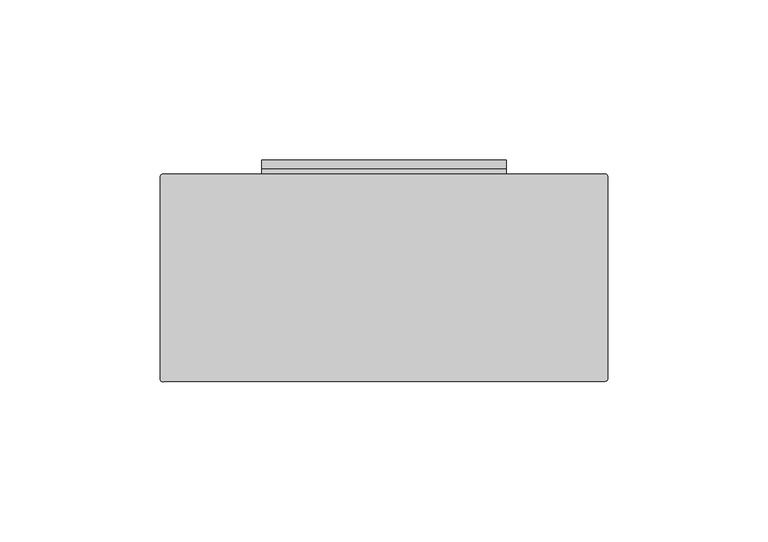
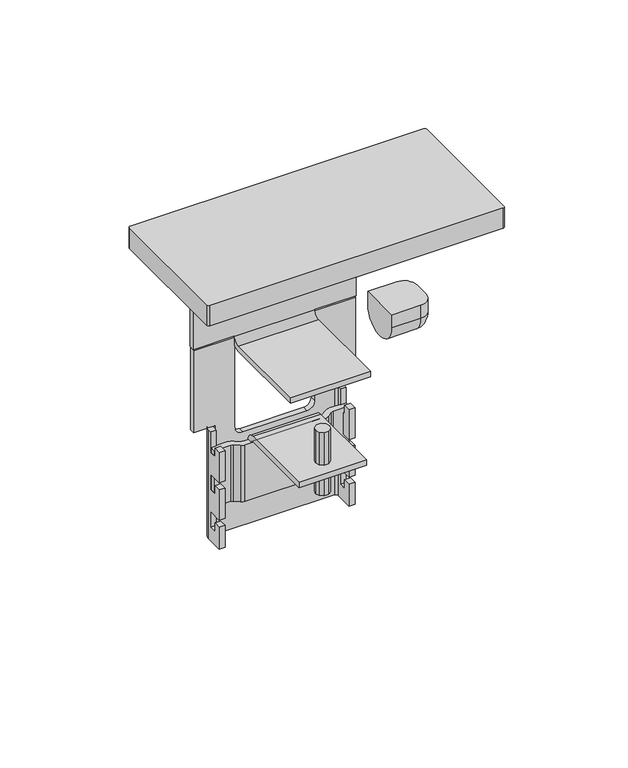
"""IFC4 building model written with IfcOpenShell, lengths in millimetres: furniture geometry, HON - Voi - Dean Power Module Clamp : Dean Power Module Clamp."""

from ifc_helpers import new_model, si_unit, point, frame, frame_2d, origin, place, context, project, spatial, polyline, circle_curve, ellipse_curve, trimmed, segment, composite_curve, outline, extrude, source, transform, mapped, element, save
from ifc_brep_helpers import plane_surface, cylinder_surface, revolved_surface, advanced_brep


def furniture_2e87ed6a(model_context):
    return source(origin(), model_context, "Body", "SolidModel", [
        advanced_brep(
        [(38.2728369, 5.3339995, 802.284387), (38.2728369, 2.6670006, 802.284387), (38.2728369, 2.6670006, 800.0745655), (38.2728369, 0.5643118, 801.9541746), (38.2728369, -0.9144004, 801.9541746), (38.2728369, -1.7017993, 802.7415735), (38.2728369, -1.7017993, 805.6625238), (38.2728369, -3.2003997, 805.6625238), (38.2728369, -3.2003997, 803.02144), (38.2728369, -0.6345339, 800.4555742), (38.2728369, 1.1684001, 800.4555742), (38.2728369, 1.1684001, 789.2870215), (38.2728369, -0.6345339, 789.2870215), (38.2728369, -3.2003997, 786.7211557), (38.2728369, -3.2003997, 784.0800719), (38.2728369, -1.7017993, 784.0800719), (38.2728369, -1.7017993, 787.0010222), (38.2728369, -0.9144004, 787.7884211), (38.2728369, 0.5643118, 787.7884211), (38.2728369, 2.6670006, 789.6680302), (38.2728369, 2.6670006, 755.2308638), (38.2728369, 5.3339995, 755.2308638), (-38.2728369, 2.6670006, 789.6680302), (-38.2728369, 0.5643118, 787.7884211), (-38.2728369, -0.9144004, 787.7884211), (-38.2728369, -1.7017993, 787.0010222), (-38.2728369, -1.7017993, 784.0800719), (-38.2728369, -3.2003997, 784.0800719), (-38.2728369, -3.2003997, 786.7211557), (-38.2728369, -0.6345339, 789.2870215), (-38.2728369, 1.1684001, 789.2870215), (-38.2728369, 1.1684001, 800.4555742), (-38.2728369, -0.6345339, 800.4555742), (-38.2728369, -3.2003997, 803.02144), (-38.2728369, -3.2003997, 805.6625238), (-38.2728369, -1.7017993, 805.6625238), (-38.2728369, -1.7017993, 802.7415735), (-38.2728369, -0.9144004, 801.9541746), (-38.2728369, 0.5643118, 801.9541746), (-38.2728369, 2.6670006, 800.0745655), (-38.2728369, 2.6670006, 802.284387), (-38.2728369, 5.3339995, 802.284387), (-38.2728369, 5.3339995, 755.2308638), (-38.2728369, 2.6670006, 755.2308638), (18.7960002, 5.3339995, 755.2308638), (18.7960002, 5.3339995, 754.750809), (-18.7960002, 5.3339995, 754.750809), (-18.7960002, 5.3339995, 755.2308638), (18.7960002, -0.3731531, 751.9669641), (-18.7960002, -0.3731531, 751.9669641), (-18.7960002, -42.6838454, 751.9669641), (18.7960002, -42.6838454, 751.9669641), (-18.7960002, -42.6838454, 749.2999758), (18.7960002, -42.6838454, 749.2999758), (-18.7960002, -0.1168337, 749.2999758), (18.7960002, -0.1168337, 749.2999758), (-18.7960002, 2.6670006, 755.2308638), (-18.7960002, 2.6670006, 755.0071178), (18.7960002, 2.6670006, 755.0071178), (18.7960002, 2.6670006, 755.2308638)],
        [
            (0, 1),
            (1, 2),
            (2, 3, circle_curve(frame((38.2728369, 0.7755579, 800.0745655), z_axis=(1.0, 0.0, 0.0), x_axis=(0.0, 1.0, 0.0)), 1.8914427)),
            (3, 4),
            (4, 5, circle_curve(frame((38.2728369, -0.9144004, 802.7415735), z_axis=(-1.0, 0.0, 0.0), x_axis=(0.0, 1.0, 0.0)), 0.7873989)),
            (5, 6),
            (6, 7),
            (7, 8),
            (8, 9, circle_curve(frame((38.2728369, -0.6345339, 803.02144), z_axis=(1.0, 0.0, 0.0), x_axis=(0.0, 1.0, 0.0)), 2.5658658)),
            (9, 10),
            (10, 11),
            (11, 12),
            (12, 13, circle_curve(frame((38.2728369, -0.6345339, 786.7211557), z_axis=(1.0, 0.0, 0.0), x_axis=(0.0, 1.0, 0.0)), 2.5658658)),
            (13, 14),
            (14, 15),
            (15, 16),
            (16, 17, circle_curve(frame((38.2728369, -0.9144004, 787.0010222), z_axis=(-1.0, 0.0, 0.0), x_axis=(0.0, 1.0, 0.0)), 0.7873989)),
            (17, 18),
            (18, 19, circle_curve(frame((38.2728369, 0.7755579, 789.6680302), z_axis=(1.0, 0.0, 0.0), x_axis=(0.0, 1.0, 0.0)), 1.8914427)),
            (19, 20),
            (20, 21),
            (21, 0),
            (22, 23, circle_curve(frame((-38.2728369, 0.7755579, 789.6680302), z_axis=(-1.0, 0.0, 0.0), x_axis=(0.0, 1.0, 0.0)), 1.8914427)),
            (23, 24),
            (24, 25, circle_curve(frame((-38.2728369, -0.9144004, 787.0010222), z_axis=(1.0, 0.0, 0.0), x_axis=(0.0, 1.0, 0.0)), 0.7873989)),
            (25, 26),
            (26, 27),
            (27, 28),
            (28, 29, circle_curve(frame((-38.2728369, -0.6345339, 786.7211557), z_axis=(-1.0, 0.0, 0.0), x_axis=(0.0, 1.0, 0.0)), 2.5658658)),
            (29, 30),
            (30, 31),
            (31, 32),
            (32, 33, circle_curve(frame((-38.2728369, -0.6345339, 803.02144), z_axis=(-1.0, 0.0, 0.0), x_axis=(0.0, 1.0, 0.0)), 2.5658658)),
            (33, 34),
            (34, 35),
            (35, 36),
            (36, 37, circle_curve(frame((-38.2728369, -0.9144004, 802.7415735), z_axis=(1.0, 0.0, 0.0), x_axis=(0.0, 1.0, 0.0)), 0.7873989)),
            (37, 38),
            (38, 39, circle_curve(frame((-38.2728369, 0.7755579, 800.0745655), z_axis=(-1.0, 0.0, 0.0), x_axis=(0.0, 1.0, 0.0)), 1.8914427)),
            (39, 40),
            (40, 41),
            (41, 42),
            (42, 43),
            (43, 22),
            (41, 0),
            (21, 44),
            (44, 45),
            (45, 46),
            (46, 47),
            (47, 42),
            (48, 49),
            (49, 50),
            (50, 51),
            (51, 48),
            (50, 52),
            (52, 53),
            (53, 51),
            (52, 54),
            (54, 55),
            (55, 53),
            (19, 22),
            (43, 56),
            (56, 57),
            (57, 58),
            (58, 59),
            (59, 20),
            (45, 55, circle_curve(frame((18.7960002, -0.1168337, 754.750809), z_axis=(-1.0, 0.0, 0.0), x_axis=(0.0, 1.0, 0.0)), 5.4508332)),
            (54, 46, circle_curve(frame((-18.7960002, -0.1168337, 754.750809), z_axis=(1.0, 0.0, 0.0), x_axis=(0.0, 1.0, 0.0)), 5.4508332)),
            (40, 1),
            (39, 2),
            (38, 3),
            (37, 4),
            (36, 5),
            (35, 6),
            (34, 7),
            (33, 8),
            (32, 9),
            (31, 10),
            (30, 11),
            (29, 12),
            (28, 13),
            (27, 14),
            (26, 15),
            (25, 16),
            (24, 17),
            (23, 18),
            (48, 58, circle_curve(frame((18.7960002, -0.3731531, 755.0071178), z_axis=(1.0, 0.0, 0.0), x_axis=(0.0, 1.0, 0.0)), 3.0401537)),
            (57, 49, circle_curve(frame((-18.7960002, -0.3731531, 755.0071178), z_axis=(-1.0, 0.0, 0.0), x_axis=(0.0, 1.0, 0.0)), 3.0401537)),
            (47, 56),
            (59, 44),
        ],
        [
            plane_surface(frame((38.2728369, 4.9889466, 749.2999758), z_axis=(1.0, 0.0, 0.0), x_axis=(0.0, 1.0, 0.0))),
            plane_surface(frame((-38.2728369, 4.9889466, 749.2999758), z_axis=(-1.0, 0.0, 0.0), x_axis=(0.0, -1.0, 0.0))),
            plane_surface(frame((38.2728369, 5.3339995, 754.750809), z_axis=(0.0, 1.0, 0.0), x_axis=(-1.0, 0.0, 0.0))),
            plane_surface(frame((38.2728369, -0.3731531, 751.9669641), z_axis=(0.0, 0.0, 1.0), x_axis=(-1.0, 0.0, 0.0))),
            plane_surface(frame((38.2728369, -42.6838454, 751.9669641), z_axis=(0.0, -1.0, 0.0), x_axis=(-1.0, 0.0, 0.0))),
            plane_surface(frame((38.2728369, -42.6838454, 749.2999758), z_axis=(0.0, 0.0, -1.0), x_axis=(-1.0, 0.0, 0.0))),
            plane_surface(frame((38.2728369, 2.6670006, 789.6605936), z_axis=(0.0, -1.0, 0.0), x_axis=(-1.0, 0.0, 0.0))),
            cylinder_surface(frame((-38.2728369, -0.1168337, 754.750809), z_axis=(1.0, 0.0, 0.0), x_axis=(0.0, 1.0, 0.0)), 5.4508332),
            plane_surface(frame((38.2728369, 5.3339995, 802.284387), z_axis=(0.0, 0.0, 1.0), x_axis=(-1.0, 0.0, 0.0))),
            plane_surface(frame((38.2728369, 2.6670006, 802.284387), z_axis=(0.0, -1.0, 0.0), x_axis=(-1.0, 0.0, 0.0))),
            cylinder_surface(frame((-38.2728369, 0.7755579, 800.0745655), z_axis=(1.0, 0.0, 0.0), x_axis=(0.0, 1.0, 0.0)), 1.8914427),
            plane_surface(frame((38.2728369, 0.5643118, 801.9541746), z_axis=(0.0, 0.0, 1.0), x_axis=(-1.0, 0.0, 0.0))),
            revolved_surface(polyline([(-38.2728369, -0.1270015, 802.7415735), (38.2728369, -0.1270015, 802.7415735)]), (-38.2728369, -0.9144004, 802.7415735), (-1.0, 0.0, 0.0)),
            plane_surface(frame((38.2728369, -1.7017993, 802.7415735), z_axis=(0.0, 1.0, 0.0), x_axis=(-1.0, 0.0, 0.0))),
            plane_surface(frame((38.2728369, -1.7017993, 805.6625238), z_axis=(0.0, 0.0, 1.0), x_axis=(-1.0, 0.0, 0.0))),
            plane_surface(frame((38.2728369, -3.2003997, 805.6625238), z_axis=(0.0, -1.0, 0.0), x_axis=(-1.0, 0.0, 0.0))),
            cylinder_surface(frame((-38.2728369, -0.6345339, 803.02144), z_axis=(1.0, 0.0, 0.0), x_axis=(0.0, 1.0, 0.0)), 2.5658658),
            plane_surface(frame((38.2728369, -0.6345339, 800.4555742), z_axis=(0.0, 0.0, -1.0), x_axis=(-1.0, 0.0, 0.0))),
            plane_surface(frame((38.2728369, 1.1684001, 800.4555742), z_axis=(0.0, -1.0, 0.0), x_axis=(-1.0, 0.0, 0.0))),
            plane_surface(frame((38.2728369, 1.1684001, 789.2870215), z_axis=(0.0, 0.0, 1.0), x_axis=(-1.0, 0.0, 0.0))),
            cylinder_surface(frame((-38.2728369, -0.6345339, 786.7211557), z_axis=(1.0, 0.0, 0.0), x_axis=(0.0, 1.0, 0.0)), 2.5658658),
            plane_surface(frame((38.2728369, -3.2003997, 786.7211557), z_axis=(0.0, -1.0, 0.0), x_axis=(-1.0, 0.0, 0.0))),
            plane_surface(frame((38.2728369, -3.2003997, 784.0800719), z_axis=(0.0, 0.0, -1.0), x_axis=(-1.0, 0.0, 0.0))),
            plane_surface(frame((38.2728369, -1.7017993, 784.0800719), z_axis=(0.0, 1.0, 0.0), x_axis=(-1.0, 0.0, 0.0))),
            revolved_surface(polyline([(-38.2728369, -0.1270015, 787.0010222), (38.2728369, -0.1270015, 787.0010222)]), (-38.2728369, -0.9144004, 787.0010222), (-1.0, 0.0, 0.0)),
            plane_surface(frame((38.2728369, -0.9144004, 787.7884211), z_axis=(0.0, 0.0, -1.0), x_axis=(-1.0, 0.0, 0.0))),
            cylinder_surface(frame((-38.2728369, 0.7755579, 789.6680302), z_axis=(1.0, 0.0, 0.0), x_axis=(0.0, 1.0, 0.0)), 1.8914427),
            revolved_surface(polyline([(-18.7960002, 2.6670005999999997, 755.0071178), (18.7960002, 2.6670005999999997, 755.0071178)]), (-38.2728369, -0.3731531, 755.0071178), (-1.0, 0.0, 0.0)),
            plane_surface(frame((-18.7960002, 9.9693452, 755.2308638), z_axis=(0.0, 0.0, -1.0), x_axis=(-1.0, 0.0, 0.0))),
            plane_surface(frame((-18.7960002, -47.1806548, 755.2308638), z_axis=(-1.0, 0.0, 0.0), x_axis=(0.0, 0.0, -1.0))),
            plane_surface(frame((18.7960002, 9.9693452, 755.2308638), z_axis=(1.0, 0.0, 0.0), x_axis=(0.0, 0.0, -1.0))),
        ],
        [
            (0, [[1, 2, 3, 4, 5, 6, 7, 8, 9, 10, 11, 12, 13, 14, 15, 16, 17, 18, 19, 20, 21, 22]]),
            (1, [[23, 24, 25, 26, 27, 28, 29, 30, 31, 32, 33, 34, 35, 36, 37, 38, 39, 40, 41, 42, 43, 44]]),
            (2, [[45, -22, 46, 47, 48, 49, 50, -42]]),
            (3, [[51, 52, 53, 54]]),
            (4, [[-53, 55, 56, 57]]),
            (5, [[-56, 58, 59, 60]]),
            (6, [[61, -44, 62, 63, 64, 65, 66, -20]]),
            (7, [[-48, 67, -59, 68]]),
            (8, [[-1, -45, -41, 69]]),
            (9, [[-2, -69, -40, 70]]),
            (10, [[-3, -70, -39, 71]]),
            (11, [[-4, -71, -38, 72]]),
            (12, [[-5, -72, -37, 73]]),
            (13, [[-6, -73, -36, 74]]),
            (14, [[-7, -74, -35, 75]]),
            (15, [[-8, -75, -34, 76]]),
            (16, [[-9, -76, -33, 77]]),
            (17, [[-10, -77, -32, 78]]),
            (18, [[-11, -78, -31, 79]]),
            (19, [[-12, -79, -30, 80]]),
            (20, [[-13, -80, -29, 81]]),
            (21, [[-14, -81, -28, 82]]),
            (22, [[-15, -82, -27, 83]]),
            (23, [[-16, -83, -26, 84]]),
            (24, [[-17, -84, -25, 85]]),
            (25, [[-18, -85, -24, 86]]),
            (26, [[-19, -86, -23, -61]]),
            (27, [[-51, 87, -64, 88]]),
            (28, [[89, -62, -43, -50]]),
            (28, [[90, -46, -21, -66]]),
            (29, [[-89, -49, -68, -58, -55, -52, -88, -63]]),
            (30, [[-90, -65, -87, -54, -57, -60, -67, -47]]),
        ],
    ),
        extrude(outline(composite_curve([segment(trimmed(circle_curve(frame_2d((-68.984809, -63.0773634)), 0.9921875), [point((-68.9838368, -64.0695505))], [point((-69.9769965, -63.0773635))], False, "CARTESIAN"), True, "CONTINUOUS"), segment(polyline([(-69.9769965, -63.0773635), (-69.9770017, -0.0869205)]), True, "CONTINUOUS"), segment(trimmed(circle_curve(frame_2d((-68.975684, -0.0869204)), 1.0013177), [point((-69.9770017, -0.0869205))], [point((-68.975684, 0.9143973))], False, "CARTESIAN"), True, "CONTINUOUS"), segment(polyline([(-68.975684, 0.9143973), (68.9848142, 0.9143973)]), True, "CONTINUOUS"), segment(trimmed(circle_curve(frame_2d((68.9848142, -0.0777902)), 0.9921875), [point((68.9848142, 0.9143973))], [point((69.9770017, -0.0777903))], False, "CARTESIAN"), True, "CONTINUOUS"), segment(polyline([(69.9770017, -0.0777903), (69.9769965, -62.9421702)]), True, "CONTINUOUS"), segment(trimmed(circle_curve(frame_2d((68.984809, -62.9421701)), 0.9921875), [point((69.9769965, -62.9421702))], [point((68.9857812, -63.9343572))], False, "CARTESIAN"), True, "CONTINUOUS"), segment(polyline([(68.9857812, -63.9343572), (-68.9838368, -64.0695505)]), True, "CONTINUOUS")], self_intersect=False)), frame((0.0, 0.0, 818.4671973), z_axis=(0.0, 0.0, 1.0), x_axis=(1.0, 0.0, 0.0)), (0.0, 0.0, 1.0), 10.0373406),
        advanced_brep(
        [(-38.1, 2.6670006, 713.8669641), (-38.1, 2.6670006, 754.6339525), (-38.1, 5.3339995, 754.6339525), (-38.1, 5.3339995, 713.8669641), (-18.8083569, 2.6670006, 710.0172476), (-18.8083569, 5.3339995, 710.0172476), (-18.8083569, 5.3339995, 754.6339525), (-18.8083569, 2.6670006, 754.6339525), (18.8083569, 2.6670006, 754.6339525), (38.1, 2.6670006, 754.6339525), (38.1, 5.3339995, 754.6339525), (18.8083569, 5.3339995, 754.6339525), (18.8083569, 5.3339995, 710.0463545), (18.8083569, 2.6670006, 710.0463545), (38.1, 2.6670006, 713.8669641), (38.1, 5.3339995, 713.8669641), (-28.2804197, 5.3339995, 713.8669641), (-31.7547921, 2.6670006, 713.8669641), (31.7547921, 2.6670006, 713.8669641), (28.2804197, 5.3339995, 713.8669641), (-15.0380444, 2.6670006, 706.2469351), (-15.0380444, 5.3339995, 706.2469351), (15.0089375, 2.6670006, 706.2469351), (15.0089375, 5.3339995, 706.2469351), (-29.2099994, 1.5345572, 713.8669641), (-28.077556, 2.6670006, 713.8669641), (-31.8769991, 1.7374201, 713.8669641), (-31.8769991, -0.2539998, 713.8669641), (-29.2099994, -0.2539998, 713.8669641), (28.077556, 2.6670006, 713.8669641), (29.2099994, 1.5345572, 713.8669641), (29.2099994, -0.2539998, 713.8669641), (31.8769991, -0.2539998, 713.8669641), (31.8769991, 1.7374201, 713.8669641), (-29.2099994, 1.5345572, 659.8919884), (-29.2099994, -7.3659998, 659.8919884), (-31.8769991, -7.3659998, 659.8919884), (-31.8769991, 1.7374201, 659.8919884), (-28.2804197, 5.3339995, 659.8919884), (28.2804197, 5.3339995, 659.8919884), (31.8769991, 1.7374201, 659.8919884), (31.8769991, -7.3659998, 659.8919884), (29.2099994, -7.3659998, 659.8919884), (29.2099994, 1.5345572, 659.8919884), (28.077556, 2.6670006, 659.8919884), (-28.077556, 2.6670006, 659.8919884), (29.2099994, -7.3659998, 670.8139235), (29.2099994, -3.8100009, 670.8139235), (29.2099994, -3.8100009, 666.4958731), (29.2099994, -0.2539998, 666.4958731), (29.2099994, -0.2539998, 674.3699564), (29.2099994, -7.3659998, 674.3699564), (29.2099994, -7.3659998, 689.3559603), (29.2099994, -3.8100009, 689.3559603), (29.2099994, -3.8100009, 685.0379099), (29.2099994, -0.2539998, 685.0379099), (29.2099994, -0.2539998, 692.9119932), (29.2099994, -7.3659998, 692.9119932), (29.2099994, -7.3659998, 707.8979971), (29.2099994, -3.8100009, 707.8979971), (29.2099994, -3.8100009, 703.5799467), (29.2099994, -0.2539998, 703.5799467), (31.8769991, -7.3659998, 670.8139235), (31.8769991, -7.3659998, 674.3699564), (31.8769991, -7.3659998, 689.3559603), (31.8769991, -7.3659998, 692.9119932), (31.8769991, -7.3659998, 707.8979971), (31.8769991, -0.2539998, 703.5799467), (31.8769991, -3.8100009, 703.5799467), (31.8769991, -3.8100009, 707.8979971), (31.8769991, -0.2539998, 692.9119932), (31.8769991, -0.2539998, 685.0379099), (31.8769991, -3.8100009, 685.0379099), (31.8769991, -3.8100009, 689.3559603), (31.8769991, -0.2539998, 674.3699564), (31.8769991, -0.2539998, 666.4958731), (31.8769991, -3.8100009, 666.4958731), (31.8769991, -3.8100009, 670.8139235), (-31.8769991, -7.3659998, 670.8139235), (-31.8769991, -3.8100009, 670.8139235), (-31.8769991, -3.8100009, 666.4958731), (-31.8769991, -0.2539998, 666.4958731), (-31.8769991, -0.2539998, 674.3699564), (-31.8769991, -7.3659998, 674.3699564), (-31.8769991, -7.3659998, 689.3559603), (-31.8769991, -3.8100009, 689.3559603), (-31.8769991, -3.8100009, 685.0379099), (-31.8769991, -0.2539998, 685.0379099), (-31.8769991, -0.2539998, 692.9119932), (-31.8769991, -7.3659998, 692.9119932), (-31.8769991, -7.3659998, 707.8979971), (-31.8769991, -3.8100009, 707.8979971), (-31.8769991, -3.8100009, 703.5799467), (-31.8769991, -0.2539998, 703.5799467), (-29.2099994, -7.3659998, 670.8139235), (-29.2099994, -7.3659998, 674.3699564), (-29.2099994, -7.3659998, 689.3559603), (-29.2099994, -7.3659998, 692.9119932), (-29.2099994, -7.3659998, 707.8979971), (-29.2099994, -0.2539998, 703.5799467), (-29.2099994, -3.8100009, 703.5799467), (-29.2099994, -3.8100009, 707.8979971), (-29.2099994, -0.2539998, 692.9119932), (-29.2099994, -0.2539998, 685.0379099), (-29.2099994, -3.8100009, 685.0379099), (-29.2099994, -3.8100009, 689.3559603), (-29.2099994, -0.2539998, 674.3699564), (-29.2099994, -0.2539998, 666.4958731), (-29.2099994, -3.8100009, 666.4958731), (-29.2099994, -3.8100009, 670.8139235)],
        [
            (0, 1),
            (1, 2),
            (2, 3),
            (3, 0),
            (4, 5),
            (5, 6),
            (6, 7),
            (7, 4),
            (1, 7),
            (6, 2),
            (8, 9),
            (9, 10),
            (10, 11),
            (11, 8),
            (11, 12),
            (12, 13),
            (13, 8),
            (9, 14),
            (14, 15),
            (15, 10),
            (3, 16),
            (16, 17, circle_curve(frame((-28.2804197, 1.7374201, 713.8669641), z_axis=(0.0, 0.0, 1.0), x_axis=(1.0, 0.0, 0.0)), 3.5965794)),
            (17, 0),
            (14, 18),
            (18, 19, circle_curve(frame((28.2804197, 1.7374201, 713.8669641), z_axis=(0.0, 0.0, 1.0), x_axis=(-1.0, 0.0, 0.0)), 3.5965794)),
            (19, 15),
            (4, 20, circle_curve(frame((-15.0380444, 2.6670006, 710.0172476), z_axis=(0.0, -1.0, 0.0), x_axis=(1.0, 0.0, 0.0)), 3.7703125)),
            (20, 21),
            (21, 5, circle_curve(frame((-15.0380444, 5.3339995, 710.0172476), z_axis=(0.0, 1.0, 0.0), x_axis=(1.0, 0.0, 0.0)), 3.7703125)),
            (20, 22),
            (22, 23),
            (23, 21),
            (22, 13, circle_curve(frame((15.0089375, 2.6670006, 710.0463545), z_axis=(0.0, -1.0, 0.0), x_axis=(1.0, 0.0, 0.0)), 3.7994194)),
            (12, 23, circle_curve(frame((15.0089375, 5.3339995, 710.0463545), z_axis=(0.0, 1.0, 0.0), x_axis=(1.0, 0.0, 0.0)), 3.7994194)),
            (24, 25, circle_curve(frame((-28.077556, 1.5345572, 713.8669641), z_axis=(0.0, 0.0, -1.0), x_axis=(1.0, 0.0, 0.0)), 1.1324434)),
            (25, 17),
            (17, 26, circle_curve(frame((-28.2804197, 1.7374201, 713.8669641), z_axis=(0.0, 0.0, 1.0), x_axis=(1.0, 0.0, 0.0)), 3.5965794)),
            (26, 27),
            (27, 28),
            (28, 24),
            (29, 30, circle_curve(frame((28.077556, 1.5345572, 713.8669641), z_axis=(0.0, 0.0, -1.0), x_axis=(-1.0, 0.0, 0.0)), 1.1324434)),
            (30, 31),
            (31, 32),
            (32, 33),
            (33, 18, circle_curve(frame((28.2804197, 1.7374201, 713.8669641), z_axis=(0.0, 0.0, 1.0), x_axis=(-1.0, 0.0, 0.0)), 3.5965794)),
            (18, 29),
            (34, 35),
            (35, 36),
            (36, 37),
            (37, 38, circle_curve(frame((-28.2804197, 1.7374201, 659.8919884), z_axis=(0.0, 0.0, -1.0), x_axis=(1.0, 0.0, 0.0)), 3.5965794)),
            (38, 39),
            (39, 40, circle_curve(frame((28.2804197, 1.7374201, 659.8919884), z_axis=(0.0, 0.0, -1.0), x_axis=(-1.0, 0.0, 0.0)), 3.5965794)),
            (40, 41),
            (41, 42),
            (42, 43),
            (43, 44, circle_curve(frame((28.077556, 1.5345572, 659.8919884), z_axis=(0.0, 0.0, 1.0), x_axis=(-1.0, 0.0, 0.0)), 1.1324434)),
            (44, 45),
            (45, 34, circle_curve(frame((-28.077556, 1.5345572, 659.8919884), z_axis=(0.0, 0.0, 1.0), x_axis=(1.0, 0.0, 0.0)), 1.1324434)),
            (24, 34),
            (45, 25),
            (44, 29),
            (43, 30),
            (42, 46),
            (46, 47),
            (47, 48),
            (48, 49),
            (49, 50),
            (50, 51),
            (51, 52),
            (52, 53),
            (53, 54),
            (54, 55),
            (55, 56),
            (56, 57),
            (57, 58),
            (58, 59),
            (59, 60),
            (60, 61),
            (61, 31),
            (41, 62),
            (62, 46),
            (51, 63),
            (63, 64),
            (64, 52),
            (57, 65),
            (65, 66),
            (66, 58),
            (40, 33),
            (32, 67),
            (67, 68),
            (68, 69),
            (69, 66),
            (65, 70),
            (70, 71),
            (71, 72),
            (72, 73),
            (73, 64),
            (63, 74),
            (74, 75),
            (75, 76),
            (76, 77),
            (77, 62),
            (39, 19),
            (38, 16),
            (37, 26),
            (36, 78),
            (78, 79),
            (79, 80),
            (80, 81),
            (81, 82),
            (82, 83),
            (83, 84),
            (84, 85),
            (85, 86),
            (86, 87),
            (87, 88),
            (88, 89),
            (89, 90),
            (90, 91),
            (91, 92),
            (92, 93),
            (93, 27),
            (35, 94),
            (94, 78),
            (83, 95),
            (95, 96),
            (96, 84),
            (89, 97),
            (97, 98),
            (98, 90),
            (28, 99),
            (99, 100),
            (100, 101),
            (101, 98),
            (97, 102),
            (102, 103),
            (103, 104),
            (104, 105),
            (105, 96),
            (95, 106),
            (106, 107),
            (107, 108),
            (108, 109),
            (109, 94),
            (59, 69),
            (68, 60),
            (91, 101),
            (100, 92),
            (67, 61),
            (99, 93),
            (73, 53),
            (105, 85),
            (72, 54),
            (104, 86),
            (71, 55),
            (103, 87),
            (70, 56),
            (102, 88),
            (77, 47),
            (109, 79),
            (76, 48),
            (108, 80),
            (75, 49),
            (107, 81),
            (74, 50),
            (106, 82),
        ],
        [
            plane_surface(frame((-38.1, 2.6670006, 754.6339525), z_axis=(-1.0, 0.0, 0.0), x_axis=(0.0, 1.0, 0.0))),
            plane_surface(frame((-18.8083569, 2.6670006, 713.8669641), z_axis=(1.0, 0.0, 0.0), x_axis=(0.0, 1.0, 0.0))),
            plane_surface(frame((-18.8083569, 2.6670006, 754.6339525), z_axis=(0.0, 0.0, 1.0), x_axis=(0.0, 1.0, 0.0))),
            plane_surface(frame((38.1, 2.6670006, 754.6339525), z_axis=(0.0, 0.0, 1.0), x_axis=(0.0, 1.0, 0.0))),
            plane_surface(frame((18.8083569, 2.6670006, 754.6339525), z_axis=(-1.0, 0.0, 0.0), x_axis=(0.0, 1.0, 0.0))),
            plane_surface(frame((38.1, 2.6670006, 713.8669641), z_axis=(1.0, 0.0, 0.0), x_axis=(0.0, 1.0, 0.0))),
            plane_surface(frame((-38.1, 2.6670006, 713.8669641), z_axis=(0.0, 0.0, -1.0), x_axis=(0.0, 1.0, 0.0))),
            plane_surface(frame((18.8083569, 2.6670006, 713.8669641), z_axis=(0.0, 0.0, -1.0), x_axis=(0.0, 1.0, 0.0))),
            revolved_surface(polyline([(-11.267731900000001, 2.6670006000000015, 710.0172476), (-11.267731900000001, 5.333999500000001, 710.0172476)]), (-15.0380444, 18.6836548, 710.0172476), (0.0, -1.0, 0.0)),
            plane_surface(frame((-15.0380444, 0.0, 706.2469351), z_axis=(0.0, 0.0, 1.0), x_axis=(0.0, 1.0, 0.0))),
            revolved_surface(polyline([(18.8083569, 2.6670006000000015, 710.0463545), (18.8083569, 5.333999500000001, 710.0463545)]), (15.0089375, 18.6836548, 710.0463545), (0.0, -1.0, 0.0)),
            plane_surface(frame((-26.9451127, 1.5345572, 713.8669641), z_axis=(0.0, 0.0, 1.0), x_axis=(0.0, -1.0, 0.0))),
            plane_surface(frame((-26.9451127, 1.5345572, 659.8919884), z_axis=(0.0, 0.0, -1.0), x_axis=(0.0, 1.0, 0.0))),
            revolved_surface(polyline([(-26.9451126, 1.5345572, 659.8919884), (-26.9451126, 1.5345572, 713.8669641)]), (-28.077556, 1.5345572, 659.8919884), (0.0, 0.0, -1.0)),
            plane_surface(frame((-28.077556, 2.6670006, 713.8669641), z_axis=(0.0, -1.0, 0.0), x_axis=(0.0, 0.0, -1.0))),
            revolved_surface(polyline([(26.9451126, 1.5345572, 659.8919884), (26.9451126, 1.5345572, 713.8669641)]), (28.077556, 1.5345572, 659.8919884), (0.0, 0.0, -1.0)),
            plane_surface(frame((29.2099994, 1.5345572, 713.8669641), z_axis=(-1.0, 0.0, 0.0), x_axis=(0.0, 0.0, -1.0))),
            plane_surface(frame((29.2099994, -7.3659998, 713.8669641), z_axis=(0.0, -1.0, 0.0), x_axis=(0.0, 0.0, -1.0))),
            plane_surface(frame((31.8769991, -7.3659998, 713.8669641), z_axis=(1.0, 0.0, 0.0), x_axis=(0.0, 0.0, -1.0))),
            cylinder_surface(frame((28.2804197, 1.7374201, 659.8919884), z_axis=(0.0, 0.0, 1.0), x_axis=(-1.0, 0.0, 0.0)), 3.5965794),
            plane_surface(frame((28.2804197, 5.3339995, 713.8669641), z_axis=(0.0, 1.0, 0.0), x_axis=(0.0, 0.0, -1.0))),
            cylinder_surface(frame((-28.2804197, 1.7374201, 659.8919884), z_axis=(0.0, 0.0, 1.0), x_axis=(1.0, 0.0, 0.0)), 3.5965794),
            plane_surface(frame((-31.8769991, 1.7374201, 713.8669641), z_axis=(-1.0, 0.0, 0.0), x_axis=(0.0, 0.0, -1.0))),
            plane_surface(frame((-31.8769991, -7.3659998, 713.8669641), z_axis=(0.0, -1.0, 0.0), x_axis=(0.0, 0.0, -1.0))),
            plane_surface(frame((-29.2099994, -7.3659998, 713.8669641), z_axis=(1.0, 0.0, 0.0), x_axis=(0.0, 0.0, -1.0))),
            plane_surface(frame((57.3484768, -3.8100009, 707.8979971), z_axis=(0.0, 1.0, 0.0), x_axis=(-1.0, 0.0, 0.0))),
            plane_surface(frame((57.3484768, -3.8100009, 703.5799467), z_axis=(0.0, 0.0, 1.0), x_axis=(-1.0, 0.0, 0.0))),
            plane_surface(frame((57.3484768, -0.2539998, 703.5799467), z_axis=(0.0, -1.0, 0.0), x_axis=(-1.0, 0.0, 0.0))),
            plane_surface(frame((57.3484768, -7.3659998, 707.8979971), z_axis=(0.0, 0.0, 1.0), x_axis=(-1.0, 0.0, 0.0))),
            plane_surface(frame((57.3484768, -7.3659998, 689.3559603), z_axis=(0.0, 0.0, 1.0), x_axis=(-1.0, 0.0, 0.0))),
            plane_surface(frame((57.3484768, -3.8100009, 689.3559603), z_axis=(0.0, 1.0, 0.0), x_axis=(-1.0, 0.0, 0.0))),
            plane_surface(frame((57.3484768, -3.8100009, 685.0379099), z_axis=(0.0, 0.0, 1.0), x_axis=(-1.0, 0.0, 0.0))),
            plane_surface(frame((57.3484768, -0.2539998, 685.0379099), z_axis=(0.0, -1.0, 0.0), x_axis=(-1.0, 0.0, 0.0))),
            plane_surface(frame((57.3484768, -0.2539998, 692.9119932), z_axis=(0.0, 0.0, -1.0), x_axis=(-1.0, 0.0, 0.0))),
            plane_surface(frame((57.3484768, -7.3659998, 670.8139235), z_axis=(0.0, 0.0, 1.0), x_axis=(-1.0, 0.0, 0.0))),
            plane_surface(frame((57.3484768, -3.8100009, 670.8139235), z_axis=(0.0, 1.0, 0.0), x_axis=(-1.0, 0.0, 0.0))),
            plane_surface(frame((57.3484768, -3.8100009, 666.4958731), z_axis=(0.0, 0.0, 1.0), x_axis=(-1.0, 0.0, 0.0))),
            plane_surface(frame((57.3484768, -0.2539998, 666.4958731), z_axis=(0.0, -1.0, 0.0), x_axis=(-1.0, 0.0, 0.0))),
            plane_surface(frame((57.3484768, -0.2539998, 674.3699564), z_axis=(0.0, 0.0, -1.0), x_axis=(-1.0, 0.0, 0.0))),
        ],
        [
            (0, [[1, 2, 3, 4]]),
            (1, [[5, 6, 7, 8]]),
            (2, [[9, -7, 10, -2]]),
            (3, [[11, 12, 13, 14]]),
            (4, [[-14, 15, 16, 17]]),
            (5, [[18, 19, 20, -12]]),
            (6, [[-4, 21, 22, 23]]),
            (7, [[-19, 24, 25, 26]]),
            (8, [[-5, 27, 28, 29]]),
            (9, [[-28, 30, 31, 32]]),
            (10, [[-31, 33, -16, 34]]),
            (11, [[35, 36, 37, 38, 39, 40]]),
            (11, [[41, 42, 43, 44, 45, 46]]),
            (12, [[47, 48, 49, 50, 51, 52, 53, 54, 55, 56, 57, 58]]),
            (13, [[-35, 59, -58, 60]]),
            (14, [[-57, 61, -46, -24, -18, -11, -17, -33, -30, -27, -8, -9, -1, -23, -36, -60]]),
            (15, [[-41, -61, -56, 62]]),
            (16, [[-55, 63, 64, 65, 66, 67, 68, 69, 70, 71, 72, 73, 74, 75, 76, 77, 78, 79, -42, -62]]),
            (17, [[-54, 80, 81, -63]]),
            (17, [[-69, 82, 83, 84]]),
            (17, [[-75, 85, 86, 87]]),
            (18, [[-53, 88, -44, 89, 90, 91, 92, -86, 93, 94, 95, 96, 97, -83, 98, 99, 100, 101, 102, -80]]),
            (19, [[-52, 103, -25, -45, -88]]),
            (20, [[-51, 104, -21, -3, -10, -6, -29, -32, -34, -15, -13, -20, -26, -103]]),
            (21, [[-50, 105, -37, -22, -104]]),
            (22, [[-49, 106, 107, 108, 109, 110, 111, 112, 113, 114, 115, 116, 117, 118, 119, 120, 121, 122, -38, -105]]),
            (23, [[-48, 123, 124, -106]]),
            (23, [[-112, 125, 126, 127]]),
            (23, [[-118, 128, 129, 130]]),
            (24, [[-47, -59, -40, 131, 132, 133, 134, -129, 135, 136, 137, 138, 139, -126, 140, 141, 142, 143, 144, -123]]),
            (25, [[145, -91, 146, -77]]),
            (25, [[147, -133, 148, -120]]),
            (26, [[-146, -90, 149, -78]]),
            (26, [[-148, -132, 150, -121]]),
            (27, [[-149, -89, -43, -79]]),
            (27, [[-150, -131, -39, -122]]),
            (28, [[-145, -76, -87, -92]]),
            (28, [[-147, -119, -130, -134]]),
            (29, [[151, -70, -84, -97]]),
            (29, [[152, -113, -127, -139]]),
            (30, [[-151, -96, 153, -71]]),
            (30, [[-152, -138, 154, -114]]),
            (31, [[-153, -95, 155, -72]]),
            (31, [[-154, -137, 156, -115]]),
            (32, [[-155, -94, 157, -73]]),
            (32, [[-156, -136, 158, -116]]),
            (33, [[-157, -93, -85, -74]]),
            (33, [[-158, -135, -128, -117]]),
            (34, [[159, -64, -81, -102]]),
            (34, [[160, -107, -124, -144]]),
            (35, [[-159, -101, 161, -65]]),
            (35, [[-160, -143, 162, -108]]),
            (36, [[-161, -100, 163, -66]]),
            (36, [[-162, -142, 164, -109]]),
            (37, [[-163, -99, 165, -67]]),
            (37, [[-164, -141, 166, -110]]),
            (38, [[-165, -98, -82, -68]]),
            (38, [[-166, -140, -125, -111]]),
        ],
    ),
        extrude(outline(composite_curve([segment(trimmed(circle_curve(frame_2d((-18.7745759, -2.701767)), 3.1571232), [point((-18.7745759, -5.8588902))], [point((-20.6965126, -5.2064798))], False, "CARTESIAN"), True, "CONTINUOUS"), segment(polyline([(-20.6965126, -5.2064798), (-23.0173529, -3.4256336)]), True, "CONTINUOUS"), segment(trimmed(circle_curve(frame_2d((-24.1298235, -4.8754313)), 1.8274311), [point((-23.0173529, -3.4256336))], [point((-24.1298235, -3.0480002))], True, "CARTESIAN"), True, "CONTINUOUS"), segment(polyline([(-24.1298235, -3.0480002), (-31.7499357, -3.0480002), (-31.7499357, -0.369094), (-24.1298235, -0.369094)]), True, "CONTINUOUS"), segment(trimmed(circle_curve(frame_2d((-24.1298235, -4.8754313)), 4.5063373), [point((-24.1298235, -0.369094))], [point((-21.3865364, -1.3003156))], False, "CARTESIAN"), True, "CONTINUOUS"), segment(polyline([(-21.3865364, -1.3003156), (-19.4513342, -2.7852508)]), True, "CONTINUOUS"), segment(trimmed(circle_curve(frame_2d((-18.2884895, -1.2698045)), 1.9101795), [point((-19.4513342, -2.7852508))], [point((-18.2884895, -3.1799839))], True, "CARTESIAN"), True, "CONTINUOUS"), segment(polyline([(-18.2884895, -3.1799839), (18.2884895, -3.1799839)]), True, "CONTINUOUS"), segment(trimmed(circle_curve(frame_2d((18.2884895, -1.2698045)), 1.9101795), [point((18.2884895, -3.1799839))], [point((19.4513342, -2.7852508))], True, "CARTESIAN"), True, "CONTINUOUS"), segment(polyline([(19.4513342, -2.7852508), (21.3865364, -1.3003156)]), True, "CONTINUOUS"), segment(trimmed(circle_curve(frame_2d((24.1298235, -4.8754313)), 4.5063373), [point((21.3865364, -1.3003156))], [point((24.1298235, -0.369094))], False, "CARTESIAN"), True, "CONTINUOUS"), segment(polyline([(24.1298235, -0.369094), (31.7499357, -0.369094), (31.7499357, -3.0480002), (24.1298235, -3.0480002)]), True, "CONTINUOUS"), segment(trimmed(circle_curve(frame_2d((24.1298235, -4.8754313)), 1.8274311), [point((24.1298235, -3.0480002))], [point((23.0173529, -3.4256336))], True, "CARTESIAN"), True, "CONTINUOUS"), segment(polyline([(23.0173529, -3.4256336), (20.6965126, -5.2064798)]), True, "CONTINUOUS"), segment(trimmed(circle_curve(frame_2d((18.7745759, -2.701767)), 3.1571232), [point((20.6965126, -5.2064798))], [point((18.7745759, -5.8588902))], False, "CARTESIAN"), True, "CONTINUOUS"), segment(polyline([(18.7745759, -5.8588902), (-18.7745759, -5.8588902)]), True, "CONTINUOUS")], self_intersect=False)), frame((0.0, 0.0, 678.3357227), z_axis=(0.0, 0.0, 1.0), x_axis=(1.0, 0.0, 0.0)), (0.0, 0.0, 1.0), 27.9112124),
        advanced_brep(
        [(-0.9284318, -32.9241734, 726.3699074), (-2.6036348, -34.1865294, 726.3699074), (-3.2301668, -36.1147968, 726.3699074), (-2.5726566, -38.024345, 726.3699074), (-0.9256741, -39.2654354, 726.3699074), (1.2024782, -39.2654354, 726.3699074), (2.8148804, -38.0504031, 726.3699074), (3.4496569, -36.0967619, 726.3699074), (2.7822547, -34.1584849, 726.3699074), (1.1442679, -32.9241734, 726.3699074), (-0.9284318, -32.9241734, 694.9755301), (1.1442679, -32.9241734, 694.9755301), (2.7822547, -34.1584849, 694.9755301), (3.4496569, -36.0967619, 694.9755301), (2.8148804, -38.0504031, 694.9755301), (1.2024782, -39.2654354, 694.9755301), (-0.9256741, -39.2654354, 694.9755301), (-2.5726566, -38.024345, 694.9755301), (-3.2301668, -36.1147968, 694.9755301), (-2.6036348, -34.1865294, 694.9755301), (-0.9284318, -32.9241734, 710.2474176), (-2.6036348, -34.1865294, 710.2474176), (-2.6036348, -34.1865294, 707.5804293), (-0.9284318, -32.9241734, 707.5804293), (-3.2301668, -36.1147968, 710.2474176), (-3.2301668, -36.1147968, 707.5804293), (-2.5726566, -38.024345, 710.2474176), (-2.5726566, -38.024345, 707.5804293), (-0.9256741, -39.2654354, 710.2474176), (-0.9256741, -39.2654354, 707.5804293), (1.2024782, -39.2654354, 710.2474176), (1.2024782, -39.2654354, 707.5804293), (2.8148804, -38.0504031, 710.2474176), (2.8148804, -38.0504031, 707.5804293), (3.4496569, -36.0967619, 710.2474176), (3.4496569, -36.0967619, 707.5804293), (2.7822547, -34.1584849, 710.2474176), (2.7822547, -34.1584849, 707.5804293), (1.1442679, -32.9241734, 710.2474176), (1.1442679, -32.9241734, 707.5804293), (15.8749996, -7.1923844, 707.5804293), (15.8749996, -5.8588902, 706.2469351), (15.8749996, -3.1918896, 706.2469351), (15.8749996, -7.1923722, 710.2474176), (15.8749996, -44.8309981, 710.2474176), (15.8749996, -44.8309981, 707.5804293), (-15.8749996, -7.1923844, 707.5804293), (-15.8749996, -44.8309981, 707.5804293), (-15.8749996, -44.8309981, 710.2474176), (-15.8749996, -7.1923722, 710.2474176), (-15.8749996, -3.1918896, 706.2469351), (-15.8749996, -5.8588902, 706.2469351)],
        [
            (0, 1),
            (1, 2),
            (2, 3),
            (3, 4),
            (4, 5),
            (5, 6),
            (6, 7),
            (7, 8),
            (8, 9),
            (9, 0),
            (10, 11),
            (11, 12),
            (12, 13),
            (13, 14),
            (14, 15),
            (15, 16),
            (16, 17),
            (17, 18),
            (18, 19),
            (19, 10),
            (0, 20),
            (20, 21),
            (21, 1),
            (19, 22),
            (22, 23),
            (23, 10),
            (21, 24),
            (24, 2),
            (18, 25),
            (25, 22),
            (24, 26),
            (26, 3),
            (17, 27),
            (27, 25),
            (26, 28),
            (28, 4),
            (16, 29),
            (29, 27),
            (28, 30),
            (30, 5),
            (15, 31),
            (31, 29),
            (30, 32),
            (32, 6),
            (14, 33),
            (33, 31),
            (32, 34),
            (34, 7),
            (13, 35),
            (35, 33),
            (34, 36),
            (36, 8),
            (12, 37),
            (37, 35),
            (36, 38),
            (38, 9),
            (11, 39),
            (39, 37),
            (38, 20),
            (23, 39),
            (40, 41, circle_curve(frame((15.8749996, -7.1923844, 706.2469351), z_axis=(-1.0, 0.0, 0.0), x_axis=(0.0, 1.0, 0.0)), 1.3334942)),
            (41, 42),
            (42, 43, circle_curve(frame((15.8749996, -7.1923722, 706.2469351), z_axis=(1.0, 0.0, 0.0), x_axis=(0.0, 1.0, 0.0)), 4.0004826)),
            (43, 44),
            (44, 45),
            (45, 40),
            (46, 47),
            (47, 48),
            (48, 49),
            (49, 50, circle_curve(frame((-15.8749996, -7.1923722, 706.2469351), z_axis=(-1.0, 0.0, 0.0), x_axis=(0.0, 1.0, 0.0)), 4.0004826)),
            (50, 51),
            (51, 46, circle_curve(frame((-15.8749996, -7.1923844, 706.2469351), z_axis=(1.0, 0.0, 0.0), x_axis=(0.0, 1.0, 0.0)), 1.3334942)),
            (40, 46),
            (51, 41),
            (50, 42),
            (49, 43),
            (48, 44),
            (47, 45),
        ],
        [
            plane_surface(frame((-2.5397819, -34.1384128, 726.3699074), z_axis=(0.0, 0.0, 1.0), x_axis=(-0.798635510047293, -0.601815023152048, 0.0))),
            plane_surface(frame((-2.5397819, -34.1384128, 694.9755301), z_axis=(0.0, 0.0, -1.0), x_axis=(0.798635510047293, 0.601815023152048, 0.0))),
            plane_surface(frame((-0.9284318, -32.9241734, 726.3699074), z_axis=(-0.601815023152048, 0.798635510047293, 0.0), x_axis=(0.0, 0.0, -1.0))),
            plane_surface(frame((-2.6036348, -34.1865294, 726.3699074), z_axis=(-0.9510565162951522, 0.3090169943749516, 0.0), x_axis=(0.0, 0.0, -1.0))),
            plane_surface(frame((-3.2301668, -36.1147968, 726.3699074), z_axis=(-0.9455185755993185, -0.3255681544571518, 0.0), x_axis=(0.0, 0.0, -1.0))),
            plane_surface(frame((-2.5726566, -38.024345, 726.3699074), z_axis=(-0.6018150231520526, -0.7986355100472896, 0.0), x_axis=(0.0, 0.0, -1.0))),
            plane_surface(frame((-0.9256741, -39.2654354, 726.3699074), z_axis=(0.0, -1.0, 0.0), x_axis=(0.0, 0.0, -1.0))),
            plane_surface(frame((1.2024782, -39.2654354, 726.3699074), z_axis=(0.6018150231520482, -0.7986355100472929, 0.0), x_axis=(0.0, 0.0, -1.0))),
            plane_surface(frame((2.8148804, -38.0504031, 726.3699074), z_axis=(0.9510565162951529, -0.30901699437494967, 0.0), x_axis=(0.0, 0.0, -1.0))),
            plane_surface(frame((3.4496569, -36.0967619, 726.3699074), z_axis=(0.9455185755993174, 0.32556815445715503, 0.0), x_axis=(0.0, 0.0, -1.0))),
            plane_surface(frame((2.7822547, -34.1584849, 726.3699074), z_axis=(0.6018150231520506, 0.7986355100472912, 0.0), x_axis=(0.0, 0.0, -1.0))),
            plane_surface(frame((1.1442679, -32.9241734, 726.3699074), z_axis=(0.0, 1.0, 0.0), x_axis=(0.0, 0.0, -1.0))),
            plane_surface(frame((15.8749996, -5.8588902, 706.2469351), z_axis=(1.0, 0.0, 0.0), x_axis=(0.0, 0.0, -1.0))),
            plane_surface(frame((-15.8749996, -5.8588902, 706.2469351), z_axis=(-1.0, 0.0, 0.0), x_axis=(0.0, 0.0, 1.0))),
            revolved_surface(polyline([(-15.8749996, -5.858890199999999, 706.2469351), (15.8749996, -5.858890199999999, 706.2469351)]), (-15.8749996, -7.1923844, 706.2469351), (-1.0, 0.0, 0.0)),
            plane_surface(frame((15.8749996, -5.8588902, 706.2469351), z_axis=(0.0, 0.0, -1.0), x_axis=(-1.0, 0.0, 0.0))),
            cylinder_surface(frame((-15.8749996, -7.1923722, 706.2469351), z_axis=(1.0, 0.0, 0.0), x_axis=(0.0, 1.0, 0.0)), 4.0004826),
            plane_surface(frame((15.8749996, -7.1923722, 710.2474176), z_axis=(0.0, 0.0, 1.0), x_axis=(-1.0, 0.0, 0.0))),
            plane_surface(frame((15.8749996, -44.8309981, 710.2474176), z_axis=(0.0, -1.0, 0.0), x_axis=(-1.0, 0.0, 0.0))),
            plane_surface(frame((15.8749996, -44.8309981, 707.5804293), z_axis=(0.0, 0.0, -1.0), x_axis=(-1.0, 0.0, 0.0))),
        ],
        [
            (0, [[1, 2, 3, 4, 5, 6, 7, 8, 9, 10]]),
            (1, [[11, 12, 13, 14, 15, 16, 17, 18, 19, 20]]),
            (2, [[-1, 21, 22, 23]]),
            (2, [[-20, 24, 25, 26]]),
            (3, [[-2, -23, 27, 28]]),
            (3, [[-19, 29, 30, -24]]),
            (4, [[-3, -28, 31, 32]]),
            (4, [[-18, 33, 34, -29]]),
            (5, [[-4, -32, 35, 36]]),
            (5, [[-17, 37, 38, -33]]),
            (6, [[-5, -36, 39, 40]]),
            (6, [[-16, 41, 42, -37]]),
            (7, [[-6, -40, 43, 44]]),
            (7, [[-15, 45, 46, -41]]),
            (8, [[-7, -44, 47, 48]]),
            (8, [[-14, 49, 50, -45]]),
            (9, [[-8, -48, 51, 52]]),
            (9, [[-13, 53, 54, -49]]),
            (10, [[-9, -52, 55, 56]]),
            (10, [[-12, 57, 58, -53]]),
            (11, [[-10, -56, 59, -21]]),
            (11, [[-11, -26, 60, -57]]),
            (12, [[61, 62, 63, 64, 65, 66]]),
            (13, [[67, 68, 69, 70, 71, 72]]),
            (14, [[-61, 73, -72, 74]]),
            (15, [[-62, -74, -71, 75]]),
            (16, [[-63, -75, -70, 76]]),
            (17, [[-64, -76, -69, 77], [-22, -59, -55, -51, -47, -43, -39, -35, -31, -27]]),
            (18, [[-65, -77, -68, 78]]),
            (19, [[-66, -78, -67, -73], [-25, -30, -34, -38, -42, -46, -50, -54, -58, -60]]),
        ],
    ),
        advanced_brep(
        [(52.5761236, -22.1886052, 770.7151829), (52.5761236, -29.5738936, 770.7151829), (52.5761236, -29.5738936, 764.2716708), (52.5761236, -22.1886052, 764.2716708), (32.9388299, -35.5761199, 770.7151829), (32.9388299, -16.186379, 770.7151829), (32.9388299, -16.186379, 764.2716708), (32.9388299, -35.5761199, 764.2716708), (46.5738974, -35.5761199, 764.2716708), (46.5738974, -35.5761199, 770.7151829), (46.5738974, -16.186379, 764.2716708), (46.5738974, -16.186379, 770.7151829)],
        [
            (0, 1),
            (1, 2),
            (2, 3, circle_curve(frame((52.5761236, -25.8812494, 764.2716708), z_axis=(1.0, 0.0, 0.0), x_axis=(0.0, -1.0, 0.0)), 3.6926442)),
            (3, 0),
            (4, 5),
            (5, 6),
            (6, 7, circle_curve(frame((32.9388299, -25.8812494, 764.2716708), z_axis=(-1.0, 0.0, 0.0), x_axis=(0.0, -0.9483236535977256, -0.3173046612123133)), 9.6948705)),
            (7, 4),
            (7, 8),
            (8, 9),
            (9, 4),
            (6, 10),
            (10, 8, circle_curve(frame((46.5738974, -25.8812494, 764.2716708), z_axis=(-1.0, 0.0, 0.0), x_axis=(0.0, -0.9483236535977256, -0.3173046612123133)), 9.6948705)),
            (5, 11),
            (11, 10),
            (9, 1, circle_curve(frame((46.5738974, -29.5738936, 770.7151829), z_axis=(0.0, 0.0, 1.0), x_axis=(1.0, 0.0, 0.0)), 6.0022263)),
            (0, 11, circle_curve(frame((46.5738974, -22.1886052, 770.7151829), z_axis=(0.0, 0.0, 1.0), x_axis=(1.0, 0.0, 0.0)), 6.0022263)),
            (8, 2, circle_curve(frame((46.5738974, -29.5738936, 764.2716708), z_axis=(0.0, 0.0, 1.0), x_axis=(1.0, 0.0, 0.0)), 6.0022263)),
            (10, 3, circle_curve(frame((46.5738974, -22.1886052, 764.2716708), z_axis=(0.0, 0.0, -1.0), x_axis=(1.0, 0.0, 0.0)), 6.0022263)),
        ],
        [
            plane_surface(frame((52.5761236, -35.5761199, 770.7151829), z_axis=(1.0, 0.0, 0.0), x_axis=(0.0, 0.0, -1.0))),
            plane_surface(frame((32.9388299, -35.5761199, 770.7151829), z_axis=(-1.0, 0.0, 0.0), x_axis=(0.0, 0.0, 1.0))),
            plane_surface(frame((52.5761236, -35.5761199, 770.7151829), z_axis=(0.0, -1.0, 0.0), x_axis=(-1.0, 0.0, 0.0))),
            cylinder_surface(frame((32.9388299, -25.8812494, 764.2716708), z_axis=(1.0, 0.0, 0.0), x_axis=(0.0, -0.9483236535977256, -0.3173046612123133)), 9.6948705),
            plane_surface(frame((52.5761236, -16.186379, 764.2716708), z_axis=(0.0, 1.0, 0.0), x_axis=(-1.0, 0.0, 0.0))),
            plane_surface(frame((52.5761236, -16.186379, 770.7151829), z_axis=(0.0, 0.0, 1.0), x_axis=(-1.0, 0.0, 0.0))),
            cylinder_surface(frame((46.5738974, -29.5738936, 770.7151829), z_axis=(0.0, 0.0, -1.0), x_axis=(1.0, 0.0, 0.0)), 6.0022263),
            revolved_surface(trimmed(ellipse_curve(frame((46.5738974, -29.5738936, 764.2716708), z_axis=(0.0, 0.0, 1.0), x_axis=(1.0, 0.0, 0.0)), 6.0022263, 6.0022263), [point((46.5738974, -35.5761199, 764.2716708))], [point((52.5761236, -29.5738936, 764.2716708))], True, "CARTESIAN"), (52.5761236, -25.8812494, 764.2716708), (1.0, 0.0, 0.0)),
            cylinder_surface(frame((46.5738974, -22.1886052, 764.2716708), z_axis=(0.0, 0.0, 1.0), x_axis=(1.0, 0.0, 0.0)), 6.0022263),
        ],
        [
            (0, [[1, 2, 3, 4]]),
            (1, [[5, 6, 7, 8]]),
            (2, [[-8, 9, 10, 11]]),
            (3, [[-7, 12, 13, -9]]),
            (4, [[-6, 14, 15, -12]]),
            (5, [[-5, -11, 16, -1, 17, -14]]),
            (6, [[18, -2, -16, -10]]),
            (7, [[-18, -13, 19, -3]]),
            (8, [[-19, -15, -17, -4]]),
        ],
    ),
    ])


if __name__ == "__main__":
    model = new_model("IFC4")
    model_context = context("Model", 3, world=origin())
    ifc_project = project(units=[si_unit("LENGTHUNIT", "METRE", prefix="MILLI")], contexts=[model_context])
    site = spatial("IfcSite", under=ifc_project)
    building = spatial("IfcBuilding", under=site)
    placement = place(None, origin())
    furniture_shape = furniture_2e87ed6a(model_context)
    element("IfcFurniture", 1, ObjectType="HON - Voi - Dean Power Module Clamp : Dean Power Module Clamp", at=placement, inside=building, context=model_context, shape_type="MappedRepresentation", body=[
        mapped(furniture_shape, transform((0.0, 0.0, 0.0), x_axis=(1.0, 0.0, 0.0), y_axis=(0.0, 1.0, 0.0), z_axis=(0.0, 0.0, 1.0))),
    ])
    save(model, "model.ifc")
